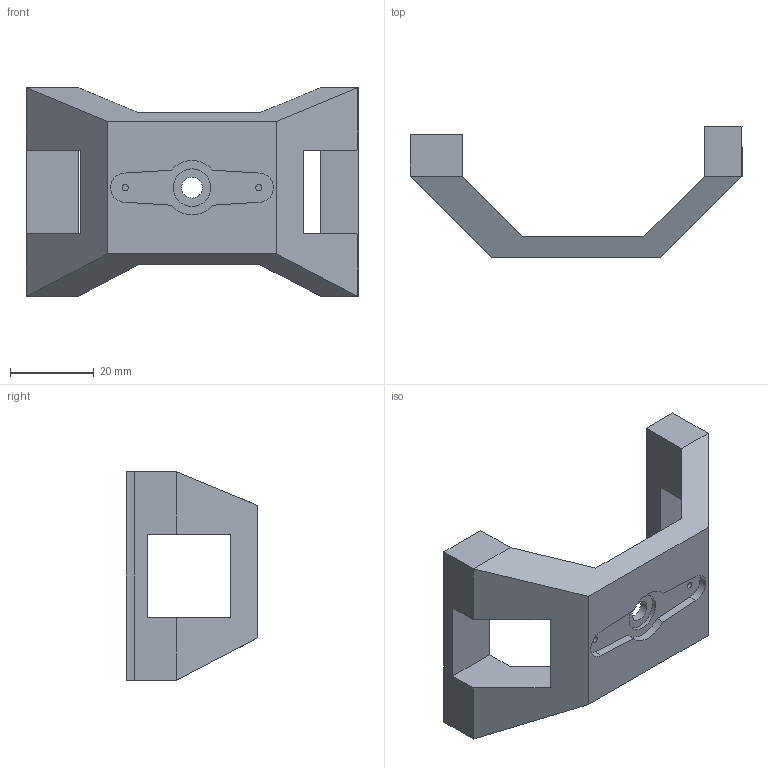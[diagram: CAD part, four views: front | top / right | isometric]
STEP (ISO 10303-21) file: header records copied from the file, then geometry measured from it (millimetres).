
FILE_DESCRIPTION(/* description */ (''),/* implementation_level */ '2;1');
FILE_NAME(/* name */ '/Users/simonhu/OneDrive - FH JOANNEUM/5Semsester/Projekt/3D/turret_final/base_mount.step',/* time_stamp */ '2022-01-27T19:27:38+01:00',/* author */ (''),/* organization */ (''),/* preprocessor_version */ 'ST-DEVELOPER v18.1',/* originating_system */ 'Autodesk Translation Framework v10.13.0.1454',/* authorisation */ '');
FILE_SCHEMA (('AUTOMOTIVE_DESIGN { 1 0 10303 214 3 1 1 }'));
Length unit declared in the file: millimetre
Products named in the file (1): Turret
Bounding box: 79.5 x 31.5 x 49.94 mm (x, y, z)
Volume: 23016.3 mm3; surface area: 11639.2 mm2
Topology: 1 solids, 1 shells, 50 faces, 124 edges, 80 vertices
Faces by surface type: plane 38, cylinder 12
Full cylindrical faces by diameter (mm): 1.5 x2, 4.4 x4, 5 x1, 9 x1
Entity records: 1502 total; most frequent: CARTESIAN_POINT 255, DIRECTION 250, ORIENTED_EDGE 248, EDGE_CURVE 124, LINE 100, VECTOR 100, VERTEX_POINT 80, AXIS2_PLACEMENT_3D 75
